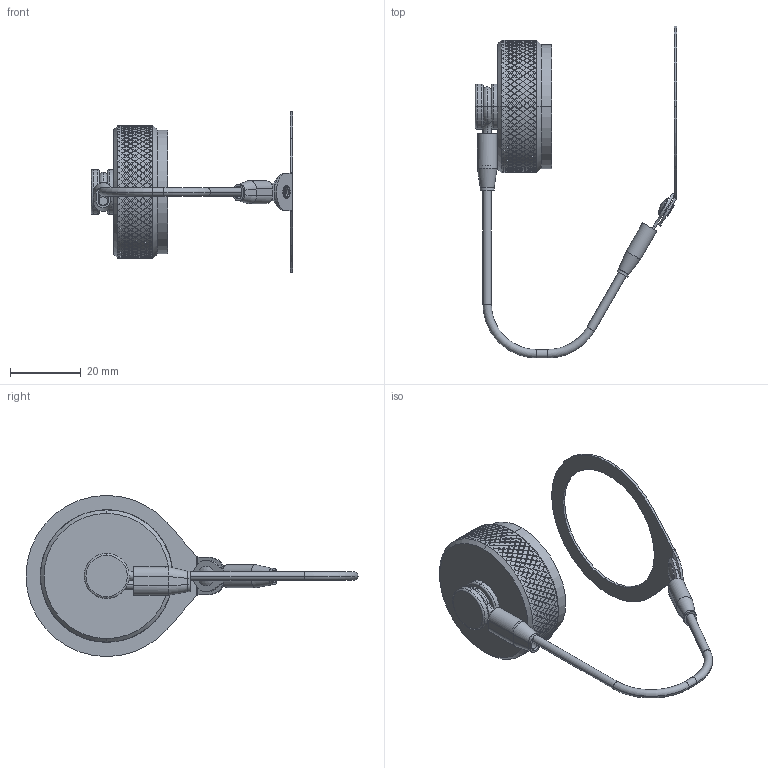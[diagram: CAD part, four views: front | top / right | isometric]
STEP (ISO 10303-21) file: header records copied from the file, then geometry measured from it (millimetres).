
FILE_DESCRIPTION (( 'STEP AP214' ), '1' );
FILE_NAME ('Q38DC-RJX-19-R0.STEP', '2026-04-22T20:30:09', ( '' ), ( '' ), 'SwSTEP 2.0', 'SolidWorks 2024', '' );
FILE_SCHEMA (( 'AUTOMOTIVE_DESIGN' ));
Length unit declared in the file: inch
Products named in the file (11): SW-XRXX_SW-BR19; HEAT SHRINK_HS-250X625_SW-348; SW-348; SW-347; LN-06-07-13_Q38DC-RJX-19; Q38DC-RJX-19-R0; Q38-XX48-X_Q38-1948-X; SW-349_SW-349; Q38-XX29-P_19R; HEAT SHRINK_HS-125-625S; Lanyard Assembly Q38_Q38DC-RJX-19
Assembly tree (10 placements, depth 3):
  Q38DC-RJX-19-R0
    Q38-XX48-X_Q38-1948-X
    Lanyard Assembly Q38_Q38DC-RJX-19
      LN-06-07-13_Q38DC-RJX-19
      SW-348
      HEAT SHRINK_HS-250X625_SW-348
      SW-347
      HEAT SHRINK_HS-125-625S
      SW-349_SW-349
      SW-XRXX_SW-BR19
    Q38-XX29-P_19R
Bounding box: 56.9 x 93.72 x 45.5 mm (x, y, z)
Volume: 9427.6 mm3; surface area: 11649.8 mm2
Topology: 9 solids, 9 shells, 2872 faces, 7082 edges, 4693 vertices
Faces by surface type: plane 2195, cylinder 627, torus 26, bspline 16, cone 6, sphere 2
Entity records: 85195 total; most frequent: CARTESIAN_POINT 29425, ORIENTED_EDGE 14164, DIRECTION 8712, EDGE_CURVE 7082, VERTEX_POINT 4693, EDGE_LOOP 3351, AXIS2_PLACEMENT_3D 3209, FACE_OUTER_BOUND 2872
